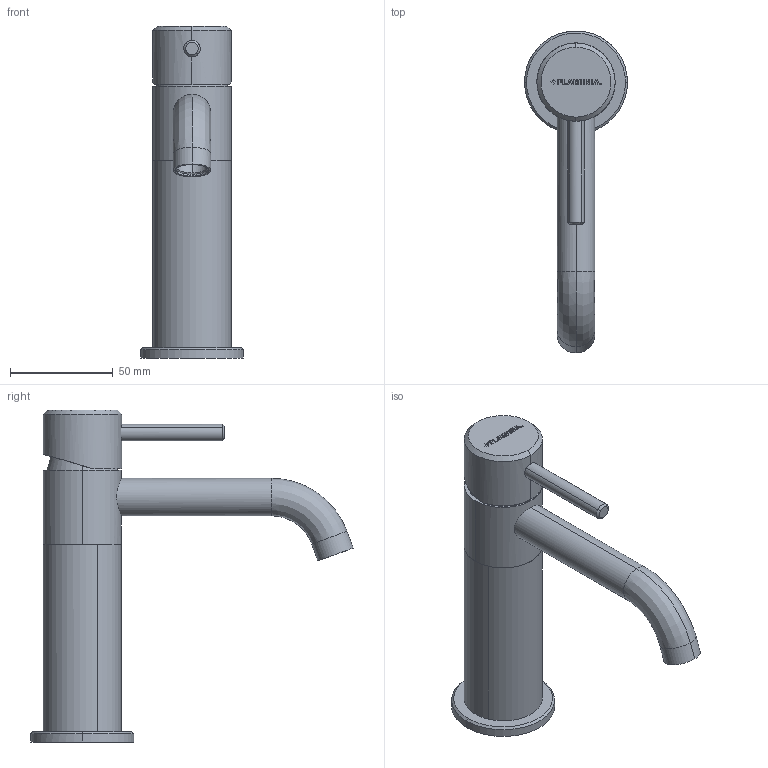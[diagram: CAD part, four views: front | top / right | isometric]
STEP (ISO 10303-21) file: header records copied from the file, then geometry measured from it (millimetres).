
FILE_DESCRIPTION(/* description */ (''),/* implementation_level */ '2;1');
FILE_NAME(/* name */ 'ST3050ACC',/* time_stamp */ '2024-02-26T10:39:49+01:00',/* author */ (''),/* organization */ (''),/* preprocessor_version */ 'ST-DEVELOPER v16.5',/* originating_system */ 'Rhino 7.36',/* authorisation */ '');
FILE_SCHEMA (('CONFIG_CONTROL_DESIGN'));
Length unit declared in the file: millimetre
Products named in the file (1): Document
Bounding box: 50 x 156.54 x 161.3 mm (x, y, z)
Volume: 40063.1 mm3; surface area: 36000.4 mm2
Topology: 2 solids, 6 shells, 155 faces, 386 edges, 251 vertices
Faces by surface type: plane 107, bspline 28, cylinder 20
Entity records: 5121 total; most frequent: CARTESIAN_POINT 2441, ORIENTED_EDGE 750, EDGE_CURVE 386, B_SPLINE_CURVE_WITH_KNOTS 302, VERTEX_POINT 251, EDGE_LOOP 172, ADVANCED_FACE 155, FACE_OUTER_BOUND 155
